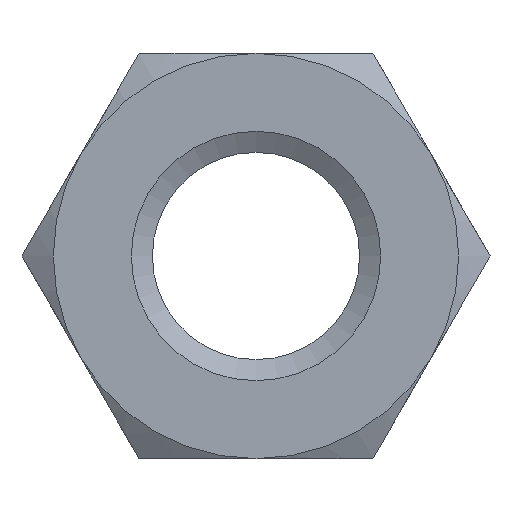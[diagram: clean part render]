
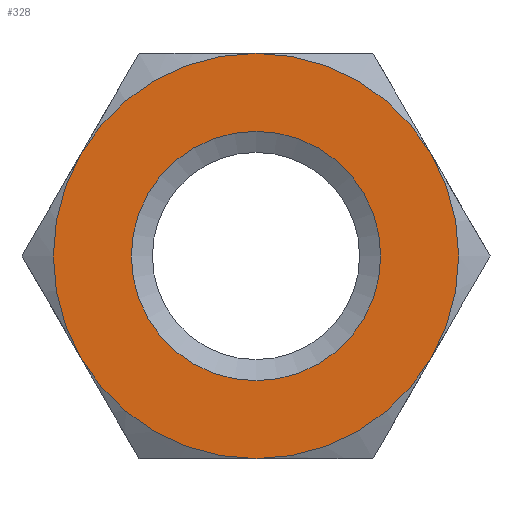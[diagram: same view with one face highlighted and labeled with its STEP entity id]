
A CAD part, left-side view. The second image highlights one B-rep face of the part: STEP entity #328.
In plain terms, the highlighted planar face has unit normal (-1, 0, 0).
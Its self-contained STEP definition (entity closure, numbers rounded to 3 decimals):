
#39=FACE_BOUND('',#76,.T.);
#41=PLANE('',#378);
#52=FACE_OUTER_BOUND('',#75,.T.);
#75=EDGE_LOOP('',(#221,#222,#223,#224,#225,#226));
#76=EDGE_LOOP('',(#227));
#116=CIRCLE('',#373,4.);
#120=CIRCLE('',#379,6.5);
#121=CIRCLE('',#380,6.5);
#122=CIRCLE('',#381,6.5);
#123=CIRCLE('',#382,6.5);
#124=CIRCLE('',#383,6.5);
#125=CIRCLE('',#384,6.5);
#133=VERTEX_POINT('',#505);
#137=VERTEX_POINT('',#517);
#138=VERTEX_POINT('',#518);
#139=VERTEX_POINT('',#520);
#140=VERTEX_POINT('',#522);
#141=VERTEX_POINT('',#524);
#142=VERTEX_POINT('',#526);
#162=EDGE_CURVE('',#133,#133,#116,.T.);
#168=EDGE_CURVE('',#137,#138,#120,.T.);
#169=EDGE_CURVE('',#138,#139,#121,.T.);
#170=EDGE_CURVE('',#139,#140,#122,.T.);
#171=EDGE_CURVE('',#140,#141,#123,.T.);
#172=EDGE_CURVE('',#141,#142,#124,.T.);
#173=EDGE_CURVE('',#142,#137,#125,.T.);
#221=ORIENTED_EDGE('',*,*,#168,.T.);
#222=ORIENTED_EDGE('',*,*,#169,.T.);
#223=ORIENTED_EDGE('',*,*,#170,.T.);
#224=ORIENTED_EDGE('',*,*,#171,.T.);
#225=ORIENTED_EDGE('',*,*,#172,.T.);
#226=ORIENTED_EDGE('',*,*,#173,.T.);
#227=ORIENTED_EDGE('',*,*,#162,.F.);
#328=ADVANCED_FACE('',(#52,#39),#41,.F.);
#373=AXIS2_PLACEMENT_3D('',#506,#416,#417);
#378=AXIS2_PLACEMENT_3D('',#516,#428,#429);
#379=AXIS2_PLACEMENT_3D('',#519,#430,#431);
#380=AXIS2_PLACEMENT_3D('',#521,#432,#433);
#381=AXIS2_PLACEMENT_3D('',#523,#434,#435);
#382=AXIS2_PLACEMENT_3D('',#525,#436,#437);
#383=AXIS2_PLACEMENT_3D('',#527,#438,#439);
#384=AXIS2_PLACEMENT_3D('',#528,#440,#441);
#416=DIRECTION('center_axis',(-1.,0.,0.));
#417=DIRECTION('ref_axis',(0.,0.,-1.));
#428=DIRECTION('center_axis',(1.,0.,0.));
#429=DIRECTION('ref_axis',(0.,0.,-1.));
#430=DIRECTION('center_axis',(-1.,0.,0.));
#431=DIRECTION('ref_axis',(0.,1.,0.));
#432=DIRECTION('center_axis',(-1.,0.,0.));
#433=DIRECTION('ref_axis',(0.,1.,0.));
#434=DIRECTION('center_axis',(-1.,0.,0.));
#435=DIRECTION('ref_axis',(0.,1.,0.));
#436=DIRECTION('center_axis',(-1.,0.,0.));
#437=DIRECTION('ref_axis',(0.,1.,0.));
#438=DIRECTION('center_axis',(-1.,0.,0.));
#439=DIRECTION('ref_axis',(0.,1.,0.));
#440=DIRECTION('center_axis',(-1.,0.,0.));
#441=DIRECTION('ref_axis',(0.,1.,0.));
#505=CARTESIAN_POINT('',(0.,0.,4.));
#506=CARTESIAN_POINT('Origin',(0.,0.,0.));
#516=CARTESIAN_POINT('Origin',(0.,0.,0.));
#517=CARTESIAN_POINT('',(0.,-5.629,-3.25));
#518=CARTESIAN_POINT('',(0.,-5.629,3.25));
#519=CARTESIAN_POINT('Origin',(0.,0.,0.));
#520=CARTESIAN_POINT('',(0.,0.,6.5));
#521=CARTESIAN_POINT('Origin',(0.,0.,0.));
#522=CARTESIAN_POINT('',(0.,5.629,3.25));
#523=CARTESIAN_POINT('Origin',(0.,0.,0.));
#524=CARTESIAN_POINT('',(0.,5.629,-3.25));
#525=CARTESIAN_POINT('Origin',(0.,0.,0.));
#526=CARTESIAN_POINT('',(0.,0.,-6.5));
#527=CARTESIAN_POINT('Origin',(0.,0.,0.));
#528=CARTESIAN_POINT('Origin',(0.,0.,0.));
